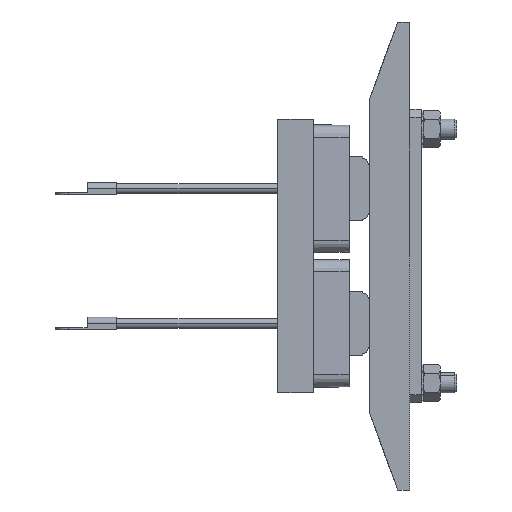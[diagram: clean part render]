
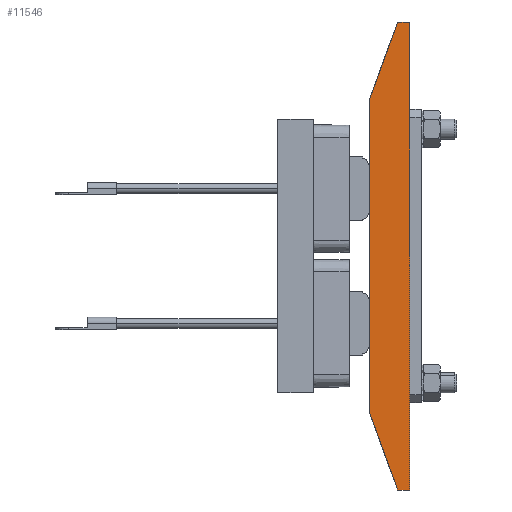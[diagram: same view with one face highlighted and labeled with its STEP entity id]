
A CAD part, left-side view. The second image highlights one B-rep face of the part: STEP entity #11546.
In plain terms, the highlighted planar face has unit normal (-1, 0, 0).
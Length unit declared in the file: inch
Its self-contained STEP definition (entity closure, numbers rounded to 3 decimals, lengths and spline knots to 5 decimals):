
#843 = LINE ( 'NONE', #18390, #9808 ) ;
#1215 = DIRECTION ( 'NONE',  ( 1., 0., 0. ) ) ;
#1244 = DIRECTION ( 'NONE',  ( 0., 0., 1. ) ) ;
#2355 = EDGE_CURVE ( 'NONE', #10758, #16123, #22453, .T. ) ;
#3165 = CARTESIAN_POINT ( 'NONE',  ( -1.4375, 0.187, 3.6875 ) ) ;
#4722 = PLANE ( 'NONE',  #20491 ) ;
#5474 = ORIENTED_EDGE ( 'NONE', *, *, #19249, .T. ) ;
#5674 = VERTEX_POINT ( 'NONE', #12950 ) ;
#5700 = VECTOR ( 'NONE', #1244, 39.37008 ) ;
#6278 = VECTOR ( 'NONE', #8947, 39.37008 ) ;
#6281 = ORIENTED_EDGE ( 'NONE', *, *, #2355, .T. ) ;
#6566 = CARTESIAN_POINT ( 'NONE',  ( -1.4375, 0.187, -3.6875 ) ) ;
#6888 = VERTEX_POINT ( 'NONE', #21485 ) ;
#6934 = DIRECTION ( 'NONE',  ( 0., -1., 0. ) ) ;
#7008 = CARTESIAN_POINT ( 'NONE',  ( -1.4375, 0.625, -3.6875 ) ) ;
#7110 = CARTESIAN_POINT ( 'NONE',  ( -1.4375, 0.625, -2.4841 ) ) ;
#7268 = LINE ( 'NONE', #7008, #21089 ) ;
#7328 = VERTEX_POINT ( 'NONE', #3165 ) ;
#8947 = DIRECTION ( 'NONE',  ( 0., 0., 1. ) ) ;
#9808 = VECTOR ( 'NONE', #16576, 39.37008 ) ;
#10120 = CARTESIAN_POINT ( 'NONE',  ( -1.4375, 0.625, 2.4841 ) ) ;
#10590 = ORIENTED_EDGE ( 'NONE', *, *, #19111, .F. ) ;
#10758 = VERTEX_POINT ( 'NONE', #15566 ) ;
#11153 = VERTEX_POINT ( 'NONE', #14758 ) ;
#11346 = VECTOR ( 'NONE', #11924, 39.37008 ) ;
#11546 = ADVANCED_FACE ( 'NONE', ( #21860 ), #4722, .F. ) ;
#11659 = LINE ( 'NONE', #17905, #6278 ) ;
#11924 = DIRECTION ( 'NONE',  ( 0., 0.342, -0.94 ) ) ;
#12413 = DIRECTION ( 'NONE',  ( 0., -0.342, -0.94 ) ) ;
#12597 = ORIENTED_EDGE ( 'NONE', *, *, #15740, .F. ) ;
#12950 = CARTESIAN_POINT ( 'NONE',  ( -1.4375, 0., 3.6875 ) ) ;
#13740 = DIRECTION ( 'NONE',  ( 0., 0., -1. ) ) ;
#14520 = EDGE_LOOP ( 'NONE', ( #10590, #6281, #16322, #22232, #12597, #5474 ) ) ;
#14667 = EDGE_CURVE ( 'NONE', #16123, #11153, #7268, .T. ) ;
#14758 = CARTESIAN_POINT ( 'NONE',  ( -1.4375, 0., -3.6875 ) ) ;
#15566 = CARTESIAN_POINT ( 'NONE',  ( -1.4375, 0.625, -2.4841 ) ) ;
#15740 = EDGE_CURVE ( 'NONE', #7328, #5674, #843, .T. ) ;
#15828 = LINE ( 'NONE', #20952, #5700 ) ;
#16123 = VERTEX_POINT ( 'NONE', #6566 ) ;
#16322 = ORIENTED_EDGE ( 'NONE', *, *, #14667, .T. ) ;
#16576 = DIRECTION ( 'NONE',  ( 0., -1., 0. ) ) ;
#17905 = CARTESIAN_POINT ( 'NONE',  ( -1.4375, 0., 3.6875 ) ) ;
#18390 = CARTESIAN_POINT ( 'NONE',  ( -1.4375, 0.625, 3.6875 ) ) ;
#18467 = EDGE_CURVE ( 'NONE', #11153, #5674, #11659, .T. ) ;
#19111 = EDGE_CURVE ( 'NONE', #10758, #6888, #15828, .T. ) ;
#19249 = EDGE_CURVE ( 'NONE', #7328, #6888, #20925, .T. ) ;
#20491 = AXIS2_PLACEMENT_3D ( 'NONE', #20930, #1215, #13740 ) ;
#20925 = LINE ( 'NONE', #10120, #11346 ) ;
#20930 = CARTESIAN_POINT ( 'NONE',  ( -1.4375, 0.625, 3.6875 ) ) ;
#20952 = CARTESIAN_POINT ( 'NONE',  ( -1.4375, 0.625, 3.6875 ) ) ;
#21089 = VECTOR ( 'NONE', #6934, 39.37008 ) ;
#21485 = CARTESIAN_POINT ( 'NONE',  ( -1.4375, 0.625, 2.4841 ) ) ;
#21860 = FACE_OUTER_BOUND ( 'NONE', #14520, .T. ) ;
#21870 = VECTOR ( 'NONE', #12413, 39.37008 ) ;
#22232 = ORIENTED_EDGE ( 'NONE', *, *, #18467, .T. ) ;
#22453 = LINE ( 'NONE', #7110, #21870 ) ;
